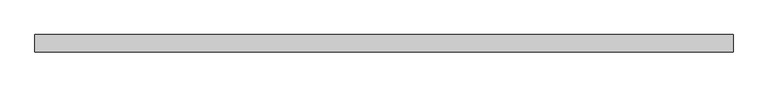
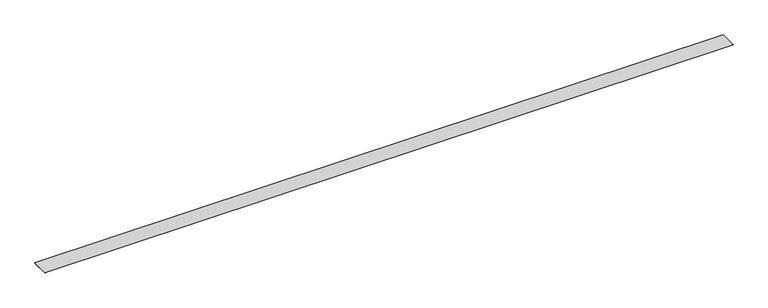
"""IFC4 building model written with IfcOpenShell, lengths in millimetres: proxy geometry, Sika® CarboDur® M914 : Sika® CarboDur® S1012."""

from ifc_helpers import new_model, si_unit, origin, origin_with_axes, place, context, project, spatial, polyline, outline, extrude, source, transform, mapped, element, save


def generic_models_d2abf90b(model_context):
    return source(origin(), model_context, "Body", "SweptSolid", [
        extrude(outline(polyline([(2015.0, 50.0), (2015.0, -50.0), (-2015.0, -50.0), (-2015.0, 50.0), (2015.0, 50.0)])), origin_with_axes(), (0.0, 0.0, 1.0), 1.2),
    ])


if __name__ == "__main__":
    model = new_model("IFC4")
    model_context = context("Model", 3, world=origin())
    ifc_project = project(units=[si_unit("LENGTHUNIT", "METRE", prefix="MILLI")], contexts=[model_context])
    site = spatial("IfcSite", under=ifc_project)
    building = spatial("IfcBuilding", under=site)
    placement = place(None, origin())
    generic_models_shape = generic_models_d2abf90b(model_context)
    element("IfcBuildingElementProxy", 1, Name="Sika® CarboDur® M914 : Sika® CarboDur® S1012", ObjectType="Sika® CarboDur® M914 : Sika® CarboDur® S1012", at=placement, inside=building, context=model_context, shape_type="MappedRepresentation", body=[
        mapped(generic_models_shape, transform((0.0, 0.0, 0.0), x_axis=(1.0, 0.0, 0.0), y_axis=(0.0, 1.0, 0.0), z_axis=(0.0, 0.0, 1.0))),
    ])
    save(model, "model.ifc")
